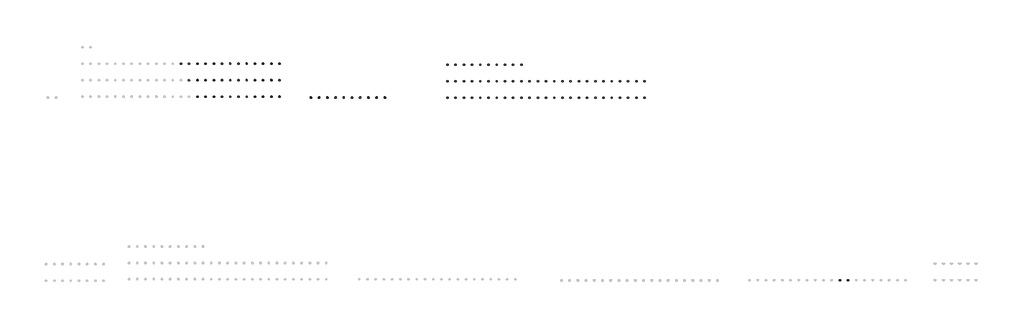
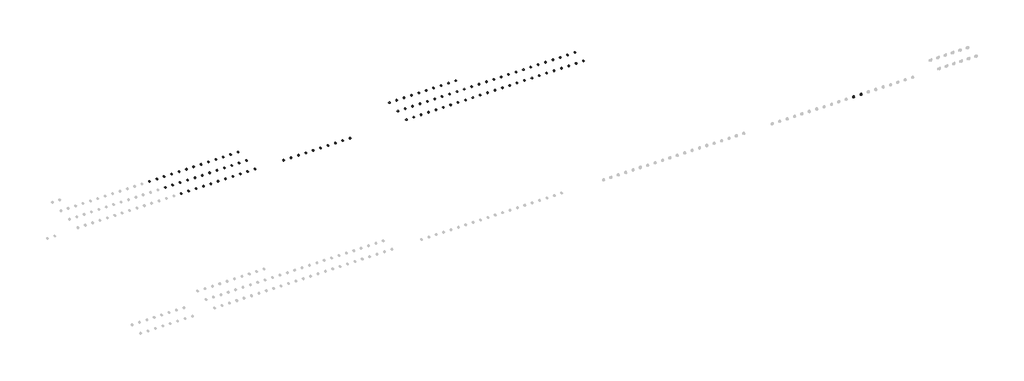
# One storey, part 14 of 18: 108 cable carrier fittings, 47 proxies.
"""IFC4 building model written with IfcOpenShell, lengths in millimetres."""

from ifc_helpers import new_model, si_unit, origin, place, context, project, spatial, transform, mapped, element, save
from components import electrical_fixtures_86e99d6b, electrical_fixtures_d0569d21, electrical_fixtures_ba285ae0, electrical_fixtures_0364c754, electrical_fixtures_06ac67d5, electrical_fixtures_78160e77, electrical_fixtures_ac517def, cable_carrier_fitting_a64d4eba

model = new_model("IFC4")

# Units and contexts
model_context = context("Model", 3, world=origin())
ifc_project = project(units=[si_unit("LENGTHUNIT", "METRE", prefix="MILLI")], contexts=[model_context])

# Site, building, storey
site = spatial("IfcSite", under=ifc_project)
building = spatial("IfcBuilding", under=site)
storey = spatial("IfcBuildingStorey", under=building, Name="Этаж 01", Elevation=0.0)

# Proxies
placement = place(None, origin())
electrical_fixtures_shape = electrical_fixtures_86e99d6b(model_context)
element("IfcBuildingElementProxy", 1, Name="IEK_Skandy_Механизм розетки мультимедийной : TV+RJ45_SK-A14B", ObjectType="IEK_Skandy_Механизм розетки мультимедийной : TV+RJ45_SK-A14B", at=placement, inside=storey, context=model_context, shape_type="MappedRepresentation", body=[
    mapped(electrical_fixtures_shape, transform((67063.2731659, -8060.0, 0.0), x_axis=(1.0, 0.0, 0.0), y_axis=(0.0, 1.0, 0.0), z_axis=(0.0, 0.0, 1.0))),
])
element("IfcBuildingElementProxy", 2, Name="IEK_Skandy_Механизм розетки мультимедийной : TV+RJ45_SK-A14Bl", ObjectType="IEK_Skandy_Механизм розетки мультимедийной : TV+RJ45_SK-A14Bl", at=placement, inside=storey, context=model_context, shape_type="MappedRepresentation", body=[
    mapped(electrical_fixtures_shape, transform((67463.2731659, -8060.0, 0.0), x_axis=(1.0, 0.0, 0.0), y_axis=(0.0, 1.0, 0.0), z_axis=(0.0, 0.0, 1.0))),
])
element("IfcBuildingElementProxy", 3, Name="IEK_Skandy_Механизм розетки мультимедийной : TV+RJ45_SK-A14G", ObjectType="IEK_Skandy_Механизм розетки мультимедийной : TV+RJ45_SK-A14G", at=placement, inside=storey, context=model_context, shape_type="MappedRepresentation", body=[
    mapped(electrical_fixtures_shape, transform((67863.2731659, -8060.0, 0.0), x_axis=(1.0, 0.0, 0.0), y_axis=(0.0, 1.0, 0.0), z_axis=(0.0, 0.0, 1.0))),
])
element("IfcBuildingElementProxy", 4, Name="IEK_Skandy_Механизм розетки мультимедийной : TV+RJ45_SK-A14Gr", ObjectType="IEK_Skandy_Механизм розетки мультимедийной : TV+RJ45_SK-A14Gr", at=placement, inside=storey, context=model_context, shape_type="MappedRepresentation", body=[
    mapped(electrical_fixtures_shape, transform((68263.2731659, -8060.0, 0.0), x_axis=(1.0, 0.0, 0.0), y_axis=(0.0, 1.0, 0.0), z_axis=(0.0, 0.0, 1.0))),
])
element("IfcBuildingElementProxy", 5, Name="IEK_Skandy_Механизм розетки мультимедийной : TV+RJ45_SK-A14M", ObjectType="IEK_Skandy_Механизм розетки мультимедийной : TV+RJ45_SK-A14M", at=placement, inside=storey, context=model_context, shape_type="MappedRepresentation", body=[
    mapped(electrical_fixtures_shape, transform((68663.2731659, -8060.0, 0.0), x_axis=(1.0, 0.0, 0.0), y_axis=(0.0, 1.0, 0.0), z_axis=(0.0, 0.0, 1.0))),
])
element("IfcBuildingElementProxy", 6, Name="IEK_Skandy_Механизм розетки мультимедийной : TV+RJ45_SK-A14N", ObjectType="IEK_Skandy_Механизм розетки мультимедийной : TV+RJ45_SK-A14N", at=placement, inside=storey, context=model_context, shape_type="MappedRepresentation", body=[
    mapped(electrical_fixtures_shape, transform((69063.2731659, -8060.0, 0.0), x_axis=(1.0, 0.0, 0.0), y_axis=(0.0, 1.0, 0.0), z_axis=(0.0, 0.0, 1.0))),
])
element("IfcBuildingElementProxy", 7, Name="IEK_Skandy_Механизм розетки мультимедийной : TV+RJ45_SK-A15Sa", ObjectType="IEK_Skandy_Механизм розетки мультимедийной : TV+RJ45_SK-A15Sa", at=placement, inside=storey, context=model_context, shape_type="MappedRepresentation", body=[
    mapped(electrical_fixtures_shape, transform((64263.2731659, -7260.0, 0.0), x_axis=(1.0, 0.0, 0.0), y_axis=(0.0, 1.0, 0.0), z_axis=(0.0, 0.0, 1.0))),
])
element("IfcBuildingElementProxy", 8, Name="IEK_Skandy_Механизм розетки мультимедийной : TV+RJ45_SK-A15Sh", ObjectType="IEK_Skandy_Механизм розетки мультимедийной : TV+RJ45_SK-A15Sh", at=placement, inside=storey, context=model_context, shape_type="MappedRepresentation", body=[
    mapped(electrical_fixtures_shape, transform((64663.2731659, -7260.0, 0.0), x_axis=(1.0, 0.0, 0.0), y_axis=(0.0, 1.0, 0.0), z_axis=(0.0, 0.0, 1.0))),
])
element("IfcBuildingElementProxy", 9, Name="IEK_Skandy_Механизм розетки мультимедийной : TV+RJ45_SK-A15T", ObjectType="IEK_Skandy_Механизм розетки мультимедийной : TV+RJ45_SK-A15T", at=placement, inside=storey, context=model_context, shape_type="MappedRepresentation", body=[
    mapped(electrical_fixtures_shape, transform((65063.2731659, -7260.0, 0.0), x_axis=(1.0, 0.0, 0.0), y_axis=(0.0, 1.0, 0.0), z_axis=(0.0, 0.0, 1.0))),
])
element("IfcBuildingElementProxy", 10, Name="IEK_Skandy_Механизм розетки мультимедийной : TV+RJ45_SK-A15W", ObjectType="IEK_Skandy_Механизм розетки мультимедийной : TV+RJ45_SK-A15W", at=placement, inside=storey, context=model_context, shape_type="MappedRepresentation", body=[
    mapped(electrical_fixtures_shape, transform((65463.2731659, -7260.0, 0.0), x_axis=(1.0, 0.0, 0.0), y_axis=(0.0, 1.0, 0.0), z_axis=(0.0, 0.0, 1.0))),
])
electrical_fixtures_2_shape = electrical_fixtures_d0569d21(model_context)
element("IfcBuildingElementProxy", 11, Name="IEK_Skandy_Механизм розетки мультимедийной : TV+SAT_SK-A13B", ObjectType="IEK_Skandy_Механизм розетки мультимедийной : TV+SAT_SK-A13B", at=placement, inside=storey, context=model_context, shape_type="MappedRepresentation", body=[
    mapped(electrical_fixtures_2_shape, transform((65863.2731659, -7260.0, 0.0), x_axis=(1.0, 0.0, 0.0), y_axis=(0.0, 1.0, 0.0), z_axis=(0.0, 0.0, 1.0))),
])
element("IfcBuildingElementProxy", 12, Name="IEK_Skandy_Механизм розетки мультимедийной : TV+SAT_SK-A13Bl", ObjectType="IEK_Skandy_Механизм розетки мультимедийной : TV+SAT_SK-A13Bl", at=placement, inside=storey, context=model_context, shape_type="MappedRepresentation", body=[
    mapped(electrical_fixtures_2_shape, transform((66263.2731659, -7260.0, 0.0), x_axis=(1.0, 0.0, 0.0), y_axis=(0.0, 1.0, 0.0), z_axis=(0.0, 0.0, 1.0))),
])
element("IfcBuildingElementProxy", 13, Name="IEK_Skandy_Механизм розетки мультимедийной : TV+SAT_SK-A13G", ObjectType="IEK_Skandy_Механизм розетки мультимедийной : TV+SAT_SK-A13G", at=placement, inside=storey, context=model_context, shape_type="MappedRepresentation", body=[
    mapped(electrical_fixtures_2_shape, transform((66663.2731659, -7260.0, 0.0), x_axis=(1.0, 0.0, 0.0), y_axis=(0.0, 1.0, 0.0), z_axis=(0.0, 0.0, 1.0))),
])
element("IfcBuildingElementProxy", 14, Name="IEK_Skandy_Механизм розетки мультимедийной : TV+SAT_SK-A13Gr", ObjectType="IEK_Skandy_Механизм розетки мультимедийной : TV+SAT_SK-A13Gr", at=placement, inside=storey, context=model_context, shape_type="MappedRepresentation", body=[
    mapped(electrical_fixtures_2_shape, transform((67063.2731659, -7260.0, 0.0), x_axis=(1.0, 0.0, 0.0), y_axis=(0.0, 1.0, 0.0), z_axis=(0.0, 0.0, 1.0))),
])
element("IfcBuildingElementProxy", 15, Name="IEK_Skandy_Механизм розетки мультимедийной : TV+SAT_SK-A13M", ObjectType="IEK_Skandy_Механизм розетки мультимедийной : TV+SAT_SK-A13M", at=placement, inside=storey, context=model_context, shape_type="MappedRepresentation", body=[
    mapped(electrical_fixtures_2_shape, transform((67463.2731659, -7260.0, 0.0), x_axis=(1.0, 0.0, 0.0), y_axis=(0.0, 1.0, 0.0), z_axis=(0.0, 0.0, 1.0))),
])
element("IfcBuildingElementProxy", 16, Name="IEK_Skandy_Механизм розетки мультимедийной : TV+SAT_SK-A13N", ObjectType="IEK_Skandy_Механизм розетки мультимедийной : TV+SAT_SK-A13N", at=placement, inside=storey, context=model_context, shape_type="MappedRepresentation", body=[
    mapped(electrical_fixtures_2_shape, transform((67863.2731659, -7260.0, 0.0), x_axis=(1.0, 0.0, 0.0), y_axis=(0.0, 1.0, 0.0), z_axis=(0.0, 0.0, 1.0))),
])
element("IfcBuildingElementProxy", 17, Name="IEK_Skandy_Механизм розетки мультимедийной : TV+SAT_SK-A13S", ObjectType="IEK_Skandy_Механизм розетки мультимедийной : TV+SAT_SK-A13S", at=placement, inside=storey, context=model_context, shape_type="MappedRepresentation", body=[
    mapped(electrical_fixtures_2_shape, transform((68263.2731659, -7260.0, 0.0), x_axis=(1.0, 0.0, 0.0), y_axis=(0.0, 1.0, 0.0), z_axis=(0.0, 0.0, 1.0))),
])
element("IfcBuildingElementProxy", 18, Name="IEK_Skandy_Механизм розетки мультимедийной : TV+SAT_SK-A13Sa", ObjectType="IEK_Skandy_Механизм розетки мультимедийной : TV+SAT_SK-A13Sa", at=placement, inside=storey, context=model_context, shape_type="MappedRepresentation", body=[
    mapped(electrical_fixtures_2_shape, transform((68663.2731659, -7260.0, 0.0), x_axis=(1.0, 0.0, 0.0), y_axis=(0.0, 1.0, 0.0), z_axis=(0.0, 0.0, 1.0))),
])
element("IfcBuildingElementProxy", 19, Name="IEK_Skandy_Механизм розетки мультимедийной : TV+SAT_SK-A13Sh", ObjectType="IEK_Skandy_Механизм розетки мультимедийной : TV+SAT_SK-A13Sh", at=placement, inside=storey, context=model_context, shape_type="MappedRepresentation", body=[
    mapped(electrical_fixtures_2_shape, transform((69063.2731659, -7260.0, 0.0), x_axis=(1.0, 0.0, 0.0), y_axis=(0.0, 1.0, 0.0), z_axis=(0.0, 0.0, 1.0))),
])
electrical_fixtures_3_shape = electrical_fixtures_ba285ae0(model_context)
element("IfcBuildingElementProxy", 20, Name="IEK_Skandy_Механизм розетки мультимедийной : HDMI_SK-H01Gr", ObjectType="IEK_Skandy_Механизм розетки мультимедийной : HDMI_SK-H01Gr", at=placement, inside=storey, context=model_context, shape_type="MappedRepresentation", body=[
    mapped(electrical_fixtures_3_shape, transform((65063.2731659, -8860.0, 0.0), x_axis=(1.0, 0.0, 0.0), y_axis=(0.0, 1.0, 0.0), z_axis=(0.0, 0.0, 1.0))),
])
element("IfcBuildingElementProxy", 21, Name="IEK_Skandy_Механизм розетки мультимедийной : HDMI_SK-H01M", ObjectType="IEK_Skandy_Механизм розетки мультимедийной : HDMI_SK-H01M", at=placement, inside=storey, context=model_context, shape_type="MappedRepresentation", body=[
    mapped(electrical_fixtures_3_shape, transform((65463.2731659, -8860.0, 0.0), x_axis=(1.0, 0.0, 0.0), y_axis=(0.0, 1.0, 0.0), z_axis=(0.0, 0.0, 1.0))),
])
element("IfcBuildingElementProxy", 22, Name="IEK_Skandy_Механизм розетки мультимедийной : HDMI_SK-H01N", ObjectType="IEK_Skandy_Механизм розетки мультимедийной : HDMI_SK-H01N", at=placement, inside=storey, context=model_context, shape_type="MappedRepresentation", body=[
    mapped(electrical_fixtures_3_shape, transform((65863.2731659, -8860.0, 0.0), x_axis=(1.0, 0.0, 0.0), y_axis=(0.0, 1.0, 0.0), z_axis=(0.0, 0.0, 1.0))),
])
element("IfcBuildingElementProxy", 23, Name="IEK_Skandy_Механизм розетки мультимедийной : HDMI_SK-H01S", ObjectType="IEK_Skandy_Механизм розетки мультимедийной : HDMI_SK-H01S", at=placement, inside=storey, context=model_context, shape_type="MappedRepresentation", body=[
    mapped(electrical_fixtures_3_shape, transform((66263.2731659, -8860.0, 0.0), x_axis=(1.0, 0.0, 0.0), y_axis=(0.0, 1.0, 0.0), z_axis=(0.0, 0.0, 1.0))),
])
element("IfcBuildingElementProxy", 24, Name="IEK_Skandy_Механизм розетки мультимедийной : HDMI_SK-H01Sa", ObjectType="IEK_Skandy_Механизм розетки мультимедийной : HDMI_SK-H01Sa", at=placement, inside=storey, context=model_context, shape_type="MappedRepresentation", body=[
    mapped(electrical_fixtures_3_shape, transform((66663.2731659, -8860.0, 0.0), x_axis=(1.0, 0.0, 0.0), y_axis=(0.0, 1.0, 0.0), z_axis=(0.0, 0.0, 1.0))),
])
element("IfcBuildingElementProxy", 25, Name="IEK_Skandy_Механизм розетки мультимедийной : HDMI_SK-H01Sh", ObjectType="IEK_Skandy_Механизм розетки мультимедийной : HDMI_SK-H01Sh", at=placement, inside=storey, context=model_context, shape_type="MappedRepresentation", body=[
    mapped(electrical_fixtures_3_shape, transform((67063.2731659, -8860.0, 0.0), x_axis=(1.0, 0.0, 0.0), y_axis=(0.0, 1.0, 0.0), z_axis=(0.0, 0.0, 1.0))),
])
element("IfcBuildingElementProxy", 26, Name="IEK_Skandy_Механизм розетки мультимедийной : HDMI_SK-H01T", ObjectType="IEK_Skandy_Механизм розетки мультимедийной : HDMI_SK-H01T", at=placement, inside=storey, context=model_context, shape_type="MappedRepresentation", body=[
    mapped(electrical_fixtures_3_shape, transform((67463.2731659, -8860.0, 0.0), x_axis=(1.0, 0.0, 0.0), y_axis=(0.0, 1.0, 0.0), z_axis=(0.0, 0.0, 1.0))),
])
element("IfcBuildingElementProxy", 27, Name="IEK_Skandy_Механизм розетки мультимедийной : HDMI_SK-H01W", ObjectType="IEK_Skandy_Механизм розетки мультимедийной : HDMI_SK-H01W", at=placement, inside=storey, context=model_context, shape_type="MappedRepresentation", body=[
    mapped(electrical_fixtures_3_shape, transform((67863.2731659, -8860.0, 0.0), x_axis=(1.0, 0.0, 0.0), y_axis=(0.0, 1.0, 0.0), z_axis=(0.0, 0.0, 1.0))),
])
electrical_fixtures_4_shape = electrical_fixtures_0364c754(model_context)
element("IfcBuildingElementProxy", 28, Name="IEK_Skandy_Механизм розетки мультимедийной : TV О_SK-A12B", ObjectType="IEK_Skandy_Механизм розетки мультимедийной : TV О_SK-A12B", at=placement, inside=storey, context=model_context, shape_type="MappedRepresentation", body=[
    mapped(electrical_fixtures_4_shape, transform((68263.2731659, -8860.0, 0.0), x_axis=(1.0, 0.0, 0.0), y_axis=(0.0, 1.0, 0.0), z_axis=(0.0, 0.0, 1.0))),
])
element("IfcBuildingElementProxy", 29, Name="IEK_Skandy_Механизм розетки мультимедийной : TV О_SK-A12Bl", ObjectType="IEK_Skandy_Механизм розетки мультимедийной : TV О_SK-A12Bl", at=placement, inside=storey, context=model_context, shape_type="MappedRepresentation", body=[
    mapped(electrical_fixtures_4_shape, transform((68663.2731659, -8860.0, 0.0), x_axis=(1.0, 0.0, 0.0), y_axis=(0.0, 1.0, 0.0), z_axis=(0.0, 0.0, 1.0))),
])
element("IfcBuildingElementProxy", 30, Name="IEK_Skandy_Механизм розетки мультимедийной : TV О_SK-A12G", ObjectType="IEK_Skandy_Механизм розетки мультимедийной : TV О_SK-A12G", at=placement, inside=storey, context=model_context, shape_type="MappedRepresentation", body=[
    mapped(electrical_fixtures_4_shape, transform((69063.2731659, -8860.0, 0.0), x_axis=(1.0, 0.0, 0.0), y_axis=(0.0, 1.0, 0.0), z_axis=(0.0, 0.0, 1.0))),
])
element("IfcBuildingElementProxy", 31, Name="IEK_Skandy_Механизм розетки мультимедийной : TV П_SK-A17S", ObjectType="IEK_Skandy_Механизм розетки мультимедийной : TV П_SK-A17S", at=placement, inside=storey, context=model_context, shape_type="MappedRepresentation", body=[
    mapped(electrical_fixtures_4_shape, transform((65063.2731659, -8060.0, 0.0), x_axis=(1.0, 0.0, 0.0), y_axis=(0.0, 1.0, 0.0), z_axis=(0.0, 0.0, 1.0))),
])
element("IfcBuildingElementProxy", 32, Name="IEK_Skandy_Механизм розетки мультимедийной : TV П_SK-A17Sa", ObjectType="IEK_Skandy_Механизм розетки мультимедийной : TV П_SK-A17Sa", at=placement, inside=storey, context=model_context, shape_type="MappedRepresentation", body=[
    mapped(electrical_fixtures_4_shape, transform((65463.2731659, -8060.0, 0.0), x_axis=(1.0, 0.0, 0.0), y_axis=(0.0, 1.0, 0.0), z_axis=(0.0, 0.0, 1.0))),
])
element("IfcBuildingElementProxy", 33, Name="IEK_Skandy_Механизм розетки мультимедийной : TV П_SK-A17Sh", ObjectType="IEK_Skandy_Механизм розетки мультимедийной : TV П_SK-A17Sh", at=placement, inside=storey, context=model_context, shape_type="MappedRepresentation", body=[
    mapped(electrical_fixtures_4_shape, transform((65863.2731659, -8060.0, 0.0), x_axis=(1.0, 0.0, 0.0), y_axis=(0.0, 1.0, 0.0), z_axis=(0.0, 0.0, 1.0))),
])
element("IfcBuildingElementProxy", 34, Name="IEK_Skandy_Механизм розетки мультимедийной : TV П_SK-A17T", ObjectType="IEK_Skandy_Механизм розетки мультимедийной : TV П_SK-A17T", at=placement, inside=storey, context=model_context, shape_type="MappedRepresentation", body=[
    mapped(electrical_fixtures_4_shape, transform((66263.2731659, -8060.0, 0.0), x_axis=(1.0, 0.0, 0.0), y_axis=(0.0, 1.0, 0.0), z_axis=(0.0, 0.0, 1.0))),
])
element("IfcBuildingElementProxy", 35, Name="IEK_Skandy_Механизм розетки мультимедийной : TV П_SK-A17W", ObjectType="IEK_Skandy_Механизм розетки мультимедийной : TV П_SK-A17W", at=placement, inside=storey, context=model_context, shape_type="MappedRepresentation", body=[
    mapped(electrical_fixtures_4_shape, transform((66663.2731659, -8060.0, 0.0), x_axis=(1.0, 0.0, 0.0), y_axis=(0.0, 1.0, 0.0), z_axis=(0.0, 0.0, 1.0))),
])
electrical_fixtures_5_shape = electrical_fixtures_06ac67d5(model_context)
element("IfcBuildingElementProxy", 36, Name="IEK_Skandy_Механизм свето-терморегулятора : ВР_SK-T01B", ObjectType="IEK_Skandy_Механизм свето-терморегулятора : ВР_SK-T01B", at=placement, inside=storey, context=model_context, shape_type="MappedRepresentation", body=[
    mapped(electrical_fixtures_5_shape, transform((70988.4433948, -8905.0, 0.0), x_axis=(1.0, 0.0, 0.0), y_axis=(0.0, 1.0, 0.0), z_axis=(0.0, 0.0, 1.0))),
])
element("IfcBuildingElementProxy", 37, Name="IEK_Skandy_Механизм свето-терморегулятора : ВР_SK-T01S", ObjectType="IEK_Skandy_Механизм свето-терморегулятора : ВР_SK-T01S", at=placement, inside=storey, context=model_context, shape_type="MappedRepresentation", body=[
    mapped(electrical_fixtures_5_shape, transform((71388.4433948, -8905.0, 0.0), x_axis=(1.0, 0.0, 0.0), y_axis=(0.0, 1.0, 0.0), z_axis=(0.0, 0.0, 1.0))),
])
element("IfcBuildingElementProxy", 38, Name="IEK_Skandy_Механизм свето-терморегулятора : ВР_SK-T01Bl", ObjectType="IEK_Skandy_Механизм свето-терморегулятора : ВР_SK-T01Bl", at=placement, inside=storey, context=model_context, shape_type="MappedRepresentation", body=[
    mapped(electrical_fixtures_5_shape, transform((71788.4433948, -8905.0, 0.0), x_axis=(1.0, 0.0, 0.0), y_axis=(0.0, 1.0, 0.0), z_axis=(0.0, 0.0, 1.0))),
])
element("IfcBuildingElementProxy", 39, Name="IEK_Skandy_Механизм свето-терморегулятора : ВР_SK-T01G", ObjectType="IEK_Skandy_Механизм свето-терморегулятора : ВР_SK-T01G", at=placement, inside=storey, context=model_context, shape_type="MappedRepresentation", body=[
    mapped(electrical_fixtures_5_shape, transform((72188.4433948, -8905.0, 0.0), x_axis=(1.0, 0.0, 0.0), y_axis=(0.0, 1.0, 0.0), z_axis=(0.0, 0.0, 1.0))),
])
element("IfcBuildingElementProxy", 40, Name="IEK_Skandy_Механизм свето-терморегулятора : ВР_SK-T01Sa", ObjectType="IEK_Skandy_Механизм свето-терморегулятора : ВР_SK-T01Sa", at=placement, inside=storey, context=model_context, shape_type="MappedRepresentation", body=[
    mapped(electrical_fixtures_5_shape, transform((72588.4433948, -8905.0, 0.0), x_axis=(1.0, 0.0, 0.0), y_axis=(0.0, 1.0, 0.0), z_axis=(0.0, 0.0, 1.0))),
])
element("IfcBuildingElementProxy", 41, Name="IEK_Skandy_Механизм свето-терморегулятора : ВР_SK-T01Sh", ObjectType="IEK_Skandy_Механизм свето-терморегулятора : ВР_SK-T01Sh", at=placement, inside=storey, context=model_context, shape_type="MappedRepresentation", body=[
    mapped(electrical_fixtures_5_shape, transform((72988.4433948, -8905.0, 0.0), x_axis=(1.0, 0.0, 0.0), y_axis=(0.0, 1.0, 0.0), z_axis=(0.0, 0.0, 1.0))),
])
element("IfcBuildingElementProxy", 42, Name="IEK_Skandy_Механизм свето-терморегулятора : ВР_SK-T01T", ObjectType="IEK_Skandy_Механизм свето-терморегулятора : ВР_SK-T01T", at=placement, inside=storey, context=model_context, shape_type="MappedRepresentation", body=[
    mapped(electrical_fixtures_5_shape, transform((73388.4433948, -8905.0, 0.0), x_axis=(1.0, 0.0, 0.0), y_axis=(0.0, 1.0, 0.0), z_axis=(0.0, 0.0, 1.0))),
])
element("IfcBuildingElementProxy", 43, Name="IEK_Skandy_Механизм свето-терморегулятора : ВР_SK-T01Gr", ObjectType="IEK_Skandy_Механизм свето-терморегулятора : ВР_SK-T01Gr", at=placement, inside=storey, context=model_context, shape_type="MappedRepresentation", body=[
    mapped(electrical_fixtures_5_shape, transform((74188.4433948, -8905.0, 0.0), x_axis=(1.0, 0.0, 0.0), y_axis=(0.0, 1.0, 0.0), z_axis=(0.0, 0.0, 1.0))),
])
element("IfcBuildingElementProxy", 44, Name="IEK_Skandy_Механизм свето-терморегулятора : ВР_SK-T01M", ObjectType="IEK_Skandy_Механизм свето-терморегулятора : ВР_SK-T01M", at=placement, inside=storey, context=model_context, shape_type="MappedRepresentation", body=[
    mapped(electrical_fixtures_5_shape, transform((73788.4433948, -8905.0, 0.0), x_axis=(1.0, 0.0, 0.0), y_axis=(0.0, 1.0, 0.0), z_axis=(0.0, 0.0, 1.0))),
])
element("IfcBuildingElementProxy", 45, Name="IEK_Skandy_Механизм свето-терморегулятора : ТР_SK-T01W", ObjectType="IEK_Skandy_Механизм свето-терморегулятора : ТР_SK-T01W", at=placement, inside=storey, context=model_context, shape_type="MappedRepresentation", body=[
    mapped(electrical_fixtures_5_shape, transform((70588.4433948, -8905.0, 0.0), x_axis=(1.0, 0.0, 0.0), y_axis=(0.0, 1.0, 0.0), z_axis=(0.0, 0.0, 1.0))),
])
electrical_fixtures_6_shape = electrical_fixtures_78160e77(model_context)
element("IfcBuildingElementProxy", 46, Name="IEK_Brite_Розетка_1гн : Р1_РСР14-1-0-БрА", ObjectType="IEK_Brite_Розетка_1гн : Р1_РСР14-1-0-БрА", at=placement, inside=storey, context=model_context, shape_type="MappedRepresentation", body=[
    mapped(electrical_fixtures_6_shape, transform((96361.8284089, -17805.0, 0.0), x_axis=(1.0, 0.0, 0.0), y_axis=(0.0, 1.0, 0.0), z_axis=(0.0, 0.0, 1.0))),
])
electrical_fixtures_7_shape = electrical_fixtures_ac517def(model_context)
element("IfcBuildingElementProxy", 47, Name="IEK_Brite_Розетка_1гн : Р1_РСР10-1-0-БрС", ObjectType="IEK_Brite_Розетка_1гн : Р1_РСР10-1-0-БрС", at=placement, inside=storey, context=model_context, shape_type="MappedRepresentation", body=[
    mapped(electrical_fixtures_7_shape, transform((96761.8284089, -17805.0, 0.0), x_axis=(1.0, 0.0, 0.0), y_axis=(0.0, 1.0, 0.0), z_axis=(0.0, 0.0, 1.0))),
])

# Cable carrier fittings
cable_carrier_fitting_shape = cable_carrier_fitting_a64d4eba(model_context)
element("IfcCableCarrierFitting", 48, ObjectType="IEK_Коробка монтажная : стены_полые", at=placement, inside=storey, context=model_context, shape_type="MappedRepresentation", body=[
    mapped(cable_carrier_fitting_shape, transform((65063.2731659, -8860.0, 0.0), x_axis=(1.0, 0.0, 0.0), y_axis=(0.0, 1.0, 0.0), z_axis=(0.0, 0.0, 1.0))),
])
element("IfcCableCarrierFitting", 49, ObjectType="IEK_Коробка монтажная : стены_полые", at=placement, inside=storey, context=model_context, shape_type="MappedRepresentation", body=[
    mapped(cable_carrier_fitting_shape, transform((65463.2731659, -8860.0, 0.0), x_axis=(1.0, 0.0, 0.0), y_axis=(0.0, 1.0, 0.0), z_axis=(0.0, 0.0, 1.0))),
])
element("IfcCableCarrierFitting", 50, ObjectType="IEK_Коробка монтажная : стены_полые", at=placement, inside=storey, context=model_context, shape_type="MappedRepresentation", body=[
    mapped(cable_carrier_fitting_shape, transform((65863.2731659, -8860.0, 0.0), x_axis=(1.0, 0.0, 0.0), y_axis=(0.0, 1.0, 0.0), z_axis=(0.0, 0.0, 1.0))),
])
element("IfcCableCarrierFitting", 51, ObjectType="IEK_Коробка монтажная : стены_полые", at=placement, inside=storey, context=model_context, shape_type="MappedRepresentation", body=[
    mapped(cable_carrier_fitting_shape, transform((66263.2731659, -8860.0, 0.0), x_axis=(1.0, 0.0, 0.0), y_axis=(0.0, 1.0, 0.0), z_axis=(0.0, 0.0, 1.0))),
])
element("IfcCableCarrierFitting", 52, ObjectType="IEK_Коробка монтажная : стены_полые", at=placement, inside=storey, context=model_context, shape_type="MappedRepresentation", body=[
    mapped(cable_carrier_fitting_shape, transform((66663.2731659, -8860.0, 0.0), x_axis=(1.0, 0.0, 0.0), y_axis=(0.0, 1.0, 0.0), z_axis=(0.0, 0.0, 1.0))),
])
element("IfcCableCarrierFitting", 53, ObjectType="IEK_Коробка монтажная : стены_полые", at=placement, inside=storey, context=model_context, shape_type="MappedRepresentation", body=[
    mapped(cable_carrier_fitting_shape, transform((67063.2731659, -8860.0, 0.0), x_axis=(1.0, 0.0, 0.0), y_axis=(0.0, 1.0, 0.0), z_axis=(0.0, 0.0, 1.0))),
])
element("IfcCableCarrierFitting", 54, ObjectType="IEK_Коробка монтажная : стены_полые", at=placement, inside=storey, context=model_context, shape_type="MappedRepresentation", body=[
    mapped(cable_carrier_fitting_shape, transform((67463.2731659, -8860.0, 0.0), x_axis=(1.0, 0.0, 0.0), y_axis=(0.0, 1.0, 0.0), z_axis=(0.0, 0.0, 1.0))),
])
element("IfcCableCarrierFitting", 55, ObjectType="IEK_Коробка монтажная : стены_полые", at=placement, inside=storey, context=model_context, shape_type="MappedRepresentation", body=[
    mapped(cable_carrier_fitting_shape, transform((67863.2731659, -8860.0, 0.0), x_axis=(1.0, 0.0, 0.0), y_axis=(0.0, 1.0, 0.0), z_axis=(0.0, 0.0, 1.0))),
])
element("IfcCableCarrierFitting", 56, ObjectType="IEK_Коробка монтажная : стены_полые", at=placement, inside=storey, context=model_context, shape_type="MappedRepresentation", body=[
    mapped(cable_carrier_fitting_shape, transform((68263.2731659, -8860.0, 0.0), x_axis=(1.0, 0.0, 0.0), y_axis=(0.0, 1.0, 0.0), z_axis=(0.0, 0.0, 1.0))),
])
element("IfcCableCarrierFitting", 57, ObjectType="IEK_Коробка монтажная : стены_полые", at=placement, inside=storey, context=model_context, shape_type="MappedRepresentation", body=[
    mapped(cable_carrier_fitting_shape, transform((68663.2731659, -8860.0, 0.0), x_axis=(1.0, 0.0, 0.0), y_axis=(0.0, 1.0, 0.0), z_axis=(0.0, 0.0, 1.0))),
])
element("IfcCableCarrierFitting", 58, ObjectType="IEK_Коробка монтажная : стены_полые", at=placement, inside=storey, context=model_context, shape_type="MappedRepresentation", body=[
    mapped(cable_carrier_fitting_shape, transform((69063.2731659, -8860.0, 0.0), x_axis=(1.0, 0.0, 0.0), y_axis=(0.0, 1.0, 0.0), z_axis=(0.0, 0.0, 1.0))),
])
element("IfcCableCarrierFitting", 59, ObjectType="IEK_Коробка монтажная : стены_полые", at=placement, inside=storey, context=model_context, shape_type="MappedRepresentation", body=[
    mapped(cable_carrier_fitting_shape, transform((64663.2731659, -8060.0, 0.0), x_axis=(1.0, 0.0, 0.0), y_axis=(0.0, 1.0, 0.0), z_axis=(0.0, 0.0, 1.0))),
])
element("IfcCableCarrierFitting", 60, ObjectType="IEK_Коробка монтажная : стены_полые", at=placement, inside=storey, context=model_context, shape_type="MappedRepresentation", body=[
    mapped(cable_carrier_fitting_shape, transform((65063.2731659, -8060.0, 0.0), x_axis=(1.0, 0.0, 0.0), y_axis=(0.0, 1.0, 0.0), z_axis=(0.0, 0.0, 1.0))),
])
element("IfcCableCarrierFitting", 61, ObjectType="IEK_Коробка монтажная : стены_полые", at=placement, inside=storey, context=model_context, shape_type="MappedRepresentation", body=[
    mapped(cable_carrier_fitting_shape, transform((65463.2731659, -8060.0, 0.0), x_axis=(1.0, 0.0, 0.0), y_axis=(0.0, 1.0, 0.0), z_axis=(0.0, 0.0, 1.0))),
])
element("IfcCableCarrierFitting", 62, ObjectType="IEK_Коробка монтажная : стены_полые", at=placement, inside=storey, context=model_context, shape_type="MappedRepresentation", body=[
    mapped(cable_carrier_fitting_shape, transform((65863.2731659, -8060.0, 0.0), x_axis=(1.0, 0.0, 0.0), y_axis=(0.0, 1.0, 0.0), z_axis=(0.0, 0.0, 1.0))),
])
element("IfcCableCarrierFitting", 63, ObjectType="IEK_Коробка монтажная : стены_полые", at=placement, inside=storey, context=model_context, shape_type="MappedRepresentation", body=[
    mapped(cable_carrier_fitting_shape, transform((66263.2731659, -8060.0, 0.0), x_axis=(1.0, 0.0, 0.0), y_axis=(0.0, 1.0, 0.0), z_axis=(0.0, 0.0, 1.0))),
])
element("IfcCableCarrierFitting", 64, ObjectType="IEK_Коробка монтажная : стены_полые", at=placement, inside=storey, context=model_context, shape_type="MappedRepresentation", body=[
    mapped(cable_carrier_fitting_shape, transform((66663.2731659, -8060.0, 0.0), x_axis=(1.0, 0.0, 0.0), y_axis=(0.0, 1.0, 0.0), z_axis=(0.0, 0.0, 1.0))),
])
element("IfcCableCarrierFitting", 65, ObjectType="IEK_Коробка монтажная : стены_полые", at=placement, inside=storey, context=model_context, shape_type="MappedRepresentation", body=[
    mapped(cable_carrier_fitting_shape, transform((67063.2731659, -8060.0, 0.0), x_axis=(1.0, 0.0, 0.0), y_axis=(0.0, 1.0, 0.0), z_axis=(0.0, 0.0, 1.0))),
])
element("IfcCableCarrierFitting", 66, ObjectType="IEK_Коробка монтажная : стены_полые", at=placement, inside=storey, context=model_context, shape_type="MappedRepresentation", body=[
    mapped(cable_carrier_fitting_shape, transform((67463.2731659, -8060.0, 0.0), x_axis=(1.0, 0.0, 0.0), y_axis=(0.0, 1.0, 0.0), z_axis=(0.0, 0.0, 1.0))),
])
element("IfcCableCarrierFitting", 67, ObjectType="IEK_Коробка монтажная : стены_полые", at=placement, inside=storey, context=model_context, shape_type="MappedRepresentation", body=[
    mapped(cable_carrier_fitting_shape, transform((67863.2731659, -8060.0, 0.0), x_axis=(1.0, 0.0, 0.0), y_axis=(0.0, 1.0, 0.0), z_axis=(0.0, 0.0, 1.0))),
])
element("IfcCableCarrierFitting", 68, ObjectType="IEK_Коробка монтажная : стены_полые", at=placement, inside=storey, context=model_context, shape_type="MappedRepresentation", body=[
    mapped(cable_carrier_fitting_shape, transform((68263.2731659, -8060.0, 0.0), x_axis=(1.0, 0.0, 0.0), y_axis=(0.0, 1.0, 0.0), z_axis=(0.0, 0.0, 1.0))),
])
element("IfcCableCarrierFitting", 69, ObjectType="IEK_Коробка монтажная : стены_полые", at=placement, inside=storey, context=model_context, shape_type="MappedRepresentation", body=[
    mapped(cable_carrier_fitting_shape, transform((68663.2731659, -8060.0, 0.0), x_axis=(1.0, 0.0, 0.0), y_axis=(0.0, 1.0, 0.0), z_axis=(0.0, 0.0, 1.0))),
])
element("IfcCableCarrierFitting", 70, ObjectType="IEK_Коробка монтажная : стены_полые", at=placement, inside=storey, context=model_context, shape_type="MappedRepresentation", body=[
    mapped(cable_carrier_fitting_shape, transform((69063.2731659, -8060.0, 0.0), x_axis=(1.0, 0.0, 0.0), y_axis=(0.0, 1.0, 0.0), z_axis=(0.0, 0.0, 1.0))),
])
element("IfcCableCarrierFitting", 71, ObjectType="IEK_Коробка монтажная : стены_полые", at=placement, inside=storey, context=model_context, shape_type="MappedRepresentation", body=[
    mapped(cable_carrier_fitting_shape, transform((64263.2731659, -7260.0, 0.0), x_axis=(1.0, 0.0, 0.0), y_axis=(0.0, 1.0, 0.0), z_axis=(0.0, 0.0, 1.0))),
])
element("IfcCableCarrierFitting", 72, ObjectType="IEK_Коробка монтажная : стены_полые", at=placement, inside=storey, context=model_context, shape_type="MappedRepresentation", body=[
    mapped(cable_carrier_fitting_shape, transform((64663.2731659, -7260.0, 0.0), x_axis=(1.0, 0.0, 0.0), y_axis=(0.0, 1.0, 0.0), z_axis=(0.0, 0.0, 1.0))),
])
element("IfcCableCarrierFitting", 73, ObjectType="IEK_Коробка монтажная : стены_полые", at=placement, inside=storey, context=model_context, shape_type="MappedRepresentation", body=[
    mapped(cable_carrier_fitting_shape, transform((65063.2731659, -7260.0, 0.0), x_axis=(1.0, 0.0, 0.0), y_axis=(0.0, 1.0, 0.0), z_axis=(0.0, 0.0, 1.0))),
])
element("IfcCableCarrierFitting", 74, ObjectType="IEK_Коробка монтажная : стены_полые", at=placement, inside=storey, context=model_context, shape_type="MappedRepresentation", body=[
    mapped(cable_carrier_fitting_shape, transform((65463.2731659, -7260.0, 0.0), x_axis=(1.0, 0.0, 0.0), y_axis=(0.0, 1.0, 0.0), z_axis=(0.0, 0.0, 1.0))),
])
element("IfcCableCarrierFitting", 75, ObjectType="IEK_Коробка монтажная : стены_полые", at=placement, inside=storey, context=model_context, shape_type="MappedRepresentation", body=[
    mapped(cable_carrier_fitting_shape, transform((65863.2731659, -7260.0, 0.0), x_axis=(1.0, 0.0, 0.0), y_axis=(0.0, 1.0, 0.0), z_axis=(0.0, 0.0, 1.0))),
])
element("IfcCableCarrierFitting", 76, ObjectType="IEK_Коробка монтажная : стены_полые", at=placement, inside=storey, context=model_context, shape_type="MappedRepresentation", body=[
    mapped(cable_carrier_fitting_shape, transform((66263.2731659, -7260.0, 0.0), x_axis=(1.0, 0.0, 0.0), y_axis=(0.0, 1.0, 0.0), z_axis=(0.0, 0.0, 1.0))),
])
element("IfcCableCarrierFitting", 77, ObjectType="IEK_Коробка монтажная : стены_полые", at=placement, inside=storey, context=model_context, shape_type="MappedRepresentation", body=[
    mapped(cable_carrier_fitting_shape, transform((66663.2731659, -7260.0, 0.0), x_axis=(1.0, 0.0, 0.0), y_axis=(0.0, 1.0, 0.0), z_axis=(0.0, 0.0, 1.0))),
])
element("IfcCableCarrierFitting", 78, ObjectType="IEK_Коробка монтажная : стены_полые", at=placement, inside=storey, context=model_context, shape_type="MappedRepresentation", body=[
    mapped(cable_carrier_fitting_shape, transform((67063.2731659, -7260.0, 0.0), x_axis=(1.0, 0.0, 0.0), y_axis=(0.0, 1.0, 0.0), z_axis=(0.0, 0.0, 1.0))),
])
element("IfcCableCarrierFitting", 79, ObjectType="IEK_Коробка монтажная : стены_полые", at=placement, inside=storey, context=model_context, shape_type="MappedRepresentation", body=[
    mapped(cable_carrier_fitting_shape, transform((67463.2731659, -7260.0, 0.0), x_axis=(1.0, 0.0, 0.0), y_axis=(0.0, 1.0, 0.0), z_axis=(0.0, 0.0, 1.0))),
])
element("IfcCableCarrierFitting", 80, ObjectType="IEK_Коробка монтажная : стены_полые", at=placement, inside=storey, context=model_context, shape_type="MappedRepresentation", body=[
    mapped(cable_carrier_fitting_shape, transform((67863.2731659, -7260.0, 0.0), x_axis=(1.0, 0.0, 0.0), y_axis=(0.0, 1.0, 0.0), z_axis=(0.0, 0.0, 1.0))),
])
element("IfcCableCarrierFitting", 81, ObjectType="IEK_Коробка монтажная : стены_полые", at=placement, inside=storey, context=model_context, shape_type="MappedRepresentation", body=[
    mapped(cable_carrier_fitting_shape, transform((68263.2731659, -7260.0, 0.0), x_axis=(1.0, 0.0, 0.0), y_axis=(0.0, 1.0, 0.0), z_axis=(0.0, 0.0, 1.0))),
])
element("IfcCableCarrierFitting", 82, ObjectType="IEK_Коробка монтажная : стены_полые", at=placement, inside=storey, context=model_context, shape_type="MappedRepresentation", body=[
    mapped(cable_carrier_fitting_shape, transform((68663.2731659, -7260.0, 0.0), x_axis=(1.0, 0.0, 0.0), y_axis=(0.0, 1.0, 0.0), z_axis=(0.0, 0.0, 1.0))),
])
element("IfcCableCarrierFitting", 83, ObjectType="IEK_Коробка монтажная : стены_полые", at=placement, inside=storey, context=model_context, shape_type="MappedRepresentation", body=[
    mapped(cable_carrier_fitting_shape, transform((69063.2731659, -7260.0, 0.0), x_axis=(1.0, 0.0, 0.0), y_axis=(0.0, 1.0, 0.0), z_axis=(0.0, 0.0, 1.0))),
])
element("IfcCableCarrierFitting", 84, ObjectType="IEK_Коробка монтажная : стены_полые", at=placement, inside=storey, context=model_context, shape_type="MappedRepresentation", body=[
    mapped(cable_carrier_fitting_shape, transform((70588.4433948, -8905.0, 0.0), x_axis=(1.0, 0.0, 0.0), y_axis=(0.0, 1.0, 0.0), z_axis=(0.0, 0.0, 1.0))),
])
element("IfcCableCarrierFitting", 85, ObjectType="IEK_Коробка монтажная : стены_полые", at=placement, inside=storey, context=model_context, shape_type="MappedRepresentation", body=[
    mapped(cable_carrier_fitting_shape, transform((70988.4433948, -8905.0, 0.0), x_axis=(1.0, 0.0, 0.0), y_axis=(0.0, 1.0, 0.0), z_axis=(0.0, 0.0, 1.0))),
])
element("IfcCableCarrierFitting", 86, ObjectType="IEK_Коробка монтажная : стены_полые", at=placement, inside=storey, context=model_context, shape_type="MappedRepresentation", body=[
    mapped(cable_carrier_fitting_shape, transform((71388.4433948, -8905.0, 0.0), x_axis=(1.0, 0.0, 0.0), y_axis=(0.0, 1.0, 0.0), z_axis=(0.0, 0.0, 1.0))),
])
element("IfcCableCarrierFitting", 87, ObjectType="IEK_Коробка монтажная : стены_полые", at=placement, inside=storey, context=model_context, shape_type="MappedRepresentation", body=[
    mapped(cable_carrier_fitting_shape, transform((71788.4433948, -8905.0, 0.0), x_axis=(1.0, 0.0, 0.0), y_axis=(0.0, 1.0, 0.0), z_axis=(0.0, 0.0, 1.0))),
])
element("IfcCableCarrierFitting", 88, ObjectType="IEK_Коробка монтажная : стены_полые", at=placement, inside=storey, context=model_context, shape_type="MappedRepresentation", body=[
    mapped(cable_carrier_fitting_shape, transform((72188.4433948, -8905.0, 0.0), x_axis=(1.0, 0.0, 0.0), y_axis=(0.0, 1.0, 0.0), z_axis=(0.0, 0.0, 1.0))),
])
element("IfcCableCarrierFitting", 89, ObjectType="IEK_Коробка монтажная : стены_полые", at=placement, inside=storey, context=model_context, shape_type="MappedRepresentation", body=[
    mapped(cable_carrier_fitting_shape, transform((72588.4433948, -8905.0, 0.0), x_axis=(1.0, 0.0, 0.0), y_axis=(0.0, 1.0, 0.0), z_axis=(0.0, 0.0, 1.0))),
])
element("IfcCableCarrierFitting", 90, ObjectType="IEK_Коробка монтажная : стены_полые", at=placement, inside=storey, context=model_context, shape_type="MappedRepresentation", body=[
    mapped(cable_carrier_fitting_shape, transform((72988.4433948, -8905.0, 0.0), x_axis=(1.0, 0.0, 0.0), y_axis=(0.0, 1.0, 0.0), z_axis=(0.0, 0.0, 1.0))),
])
element("IfcCableCarrierFitting", 91, ObjectType="IEK_Коробка монтажная : стены_полые", at=placement, inside=storey, context=model_context, shape_type="MappedRepresentation", body=[
    mapped(cable_carrier_fitting_shape, transform((73388.4433948, -8905.0, 0.0), x_axis=(1.0, 0.0, 0.0), y_axis=(0.0, 1.0, 0.0), z_axis=(0.0, 0.0, 1.0))),
])
element("IfcCableCarrierFitting", 92, ObjectType="IEK_Коробка монтажная : стены_полые", at=placement, inside=storey, context=model_context, shape_type="MappedRepresentation", body=[
    mapped(cable_carrier_fitting_shape, transform((73788.4433948, -8905.0, 0.0), x_axis=(1.0, 0.0, 0.0), y_axis=(0.0, 1.0, 0.0), z_axis=(0.0, 0.0, 1.0))),
])
element("IfcCableCarrierFitting", 93, ObjectType="IEK_Коробка монтажная : стены_полые", at=placement, inside=storey, context=model_context, shape_type="MappedRepresentation", body=[
    mapped(cable_carrier_fitting_shape, transform((74188.4433948, -8905.0, 0.0), x_axis=(1.0, 0.0, 0.0), y_axis=(0.0, 1.0, 0.0), z_axis=(0.0, 0.0, 1.0))),
])
element("IfcCableCarrierFitting", 94, ObjectType="IEK_Коробка монтажная : стены_полые", at=placement, inside=storey, context=model_context, shape_type="MappedRepresentation", body=[
    mapped(cable_carrier_fitting_shape, transform((77235.4974024, -8905.0, 0.0), x_axis=(1.0, 0.0, 0.0), y_axis=(0.0, 1.0, 0.0), z_axis=(0.0, 0.0, 1.0))),
])
element("IfcCableCarrierFitting", 95, ObjectType="IEK_Коробка монтажная : стены_полые", at=placement, inside=storey, context=model_context, shape_type="MappedRepresentation", body=[
    mapped(cable_carrier_fitting_shape, transform((77635.4974024, -8905.0, 0.0), x_axis=(1.0, 0.0, 0.0), y_axis=(0.0, 1.0, 0.0), z_axis=(0.0, 0.0, 1.0))),
])
element("IfcCableCarrierFitting", 96, ObjectType="IEK_Коробка монтажная : стены_полые", at=placement, inside=storey, context=model_context, shape_type="MappedRepresentation", body=[
    mapped(cable_carrier_fitting_shape, transform((78035.4974024, -8905.0, 0.0), x_axis=(1.0, 0.0, 0.0), y_axis=(0.0, 1.0, 0.0), z_axis=(0.0, 0.0, 1.0))),
])
element("IfcCableCarrierFitting", 97, ObjectType="IEK_Коробка монтажная : стены_полые", at=placement, inside=storey, context=model_context, shape_type="MappedRepresentation", body=[
    mapped(cable_carrier_fitting_shape, transform((78435.4974024, -8905.0, 0.0), x_axis=(1.0, 0.0, 0.0), y_axis=(0.0, 1.0, 0.0), z_axis=(0.0, 0.0, 1.0))),
])
element("IfcCableCarrierFitting", 98, ObjectType="IEK_Коробка монтажная : стены_полые", at=placement, inside=storey, context=model_context, shape_type="MappedRepresentation", body=[
    mapped(cable_carrier_fitting_shape, transform((78835.4974024, -8905.0, 0.0), x_axis=(1.0, 0.0, 0.0), y_axis=(0.0, 1.0, 0.0), z_axis=(0.0, 0.0, 1.0))),
])
element("IfcCableCarrierFitting", 99, ObjectType="IEK_Коробка монтажная : стены_полые", at=placement, inside=storey, context=model_context, shape_type="MappedRepresentation", body=[
    mapped(cable_carrier_fitting_shape, transform((79235.4974024, -8905.0, 0.0), x_axis=(1.0, 0.0, 0.0), y_axis=(0.0, 1.0, 0.0), z_axis=(0.0, 0.0, 1.0))),
])
element("IfcCableCarrierFitting", 100, ObjectType="IEK_Коробка монтажная : стены_полые", at=placement, inside=storey, context=model_context, shape_type="MappedRepresentation", body=[
    mapped(cable_carrier_fitting_shape, transform((79635.4974024, -8905.0, 0.0), x_axis=(1.0, 0.0, 0.0), y_axis=(0.0, 1.0, 0.0), z_axis=(0.0, 0.0, 1.0))),
])
element("IfcCableCarrierFitting", 101, ObjectType="IEK_Коробка монтажная : стены_полые", at=placement, inside=storey, context=model_context, shape_type="MappedRepresentation", body=[
    mapped(cable_carrier_fitting_shape, transform((80035.4974024, -8905.0, 0.0), x_axis=(1.0, 0.0, 0.0), y_axis=(0.0, 1.0, 0.0), z_axis=(0.0, 0.0, 1.0))),
])
element("IfcCableCarrierFitting", 102, ObjectType="IEK_Коробка монтажная : стены_полые", at=placement, inside=storey, context=model_context, shape_type="MappedRepresentation", body=[
    mapped(cable_carrier_fitting_shape, transform((80435.4974024, -8905.0, 0.0), x_axis=(1.0, 0.0, 0.0), y_axis=(0.0, 1.0, 0.0), z_axis=(0.0, 0.0, 1.0))),
])
element("IfcCableCarrierFitting", 103, ObjectType="IEK_Коробка монтажная : стены_полые", at=placement, inside=storey, context=model_context, shape_type="MappedRepresentation", body=[
    mapped(cable_carrier_fitting_shape, transform((80835.4974024, -8905.0, 0.0), x_axis=(1.0, 0.0, 0.0), y_axis=(0.0, 1.0, 0.0), z_axis=(0.0, 0.0, 1.0))),
])
element("IfcCableCarrierFitting", 104, ObjectType="IEK_Коробка монтажная : стены_полые", at=placement, inside=storey, context=model_context, shape_type="MappedRepresentation", body=[
    mapped(cable_carrier_fitting_shape, transform((81235.4974024, -8905.0, 0.0), x_axis=(1.0, 0.0, 0.0), y_axis=(0.0, 1.0, 0.0), z_axis=(0.0, 0.0, 1.0))),
])
element("IfcCableCarrierFitting", 105, ObjectType="IEK_Коробка монтажная : стены_полые", at=placement, inside=storey, context=model_context, shape_type="MappedRepresentation", body=[
    mapped(cable_carrier_fitting_shape, transform((81635.4974024, -8905.0, 0.0), x_axis=(1.0, 0.0, 0.0), y_axis=(0.0, 1.0, 0.0), z_axis=(0.0, 0.0, 1.0))),
])
element("IfcCableCarrierFitting", 106, ObjectType="IEK_Коробка монтажная : стены_полые", at=placement, inside=storey, context=model_context, shape_type="MappedRepresentation", body=[
    mapped(cable_carrier_fitting_shape, transform((82035.4974024, -8905.0, 0.0), x_axis=(1.0, 0.0, 0.0), y_axis=(0.0, 1.0, 0.0), z_axis=(0.0, 0.0, 1.0))),
])
element("IfcCableCarrierFitting", 107, ObjectType="IEK_Коробка монтажная : стены_полые", at=placement, inside=storey, context=model_context, shape_type="MappedRepresentation", body=[
    mapped(cable_carrier_fitting_shape, transform((82435.4974024, -8905.0, 0.0), x_axis=(1.0, 0.0, 0.0), y_axis=(0.0, 1.0, 0.0), z_axis=(0.0, 0.0, 1.0))),
])
element("IfcCableCarrierFitting", 108, ObjectType="IEK_Коробка монтажная : стены_полые", at=placement, inside=storey, context=model_context, shape_type="MappedRepresentation", body=[
    mapped(cable_carrier_fitting_shape, transform((82835.4974024, -8905.0, 0.0), x_axis=(1.0, 0.0, 0.0), y_axis=(0.0, 1.0, 0.0), z_axis=(0.0, 0.0, 1.0))),
])
element("IfcCableCarrierFitting", 109, ObjectType="IEK_Коробка монтажная : стены_полые", at=placement, inside=storey, context=model_context, shape_type="MappedRepresentation", body=[
    mapped(cable_carrier_fitting_shape, transform((83235.4974024, -8905.0, 0.0), x_axis=(1.0, 0.0, 0.0), y_axis=(0.0, 1.0, 0.0), z_axis=(0.0, 0.0, 1.0))),
])
element("IfcCableCarrierFitting", 110, ObjectType="IEK_Коробка монтажная : стены_полые", at=placement, inside=storey, context=model_context, shape_type="MappedRepresentation", body=[
    mapped(cable_carrier_fitting_shape, transform((83635.4974024, -8905.0, 0.0), x_axis=(1.0, 0.0, 0.0), y_axis=(0.0, 1.0, 0.0), z_axis=(0.0, 0.0, 1.0))),
])
element("IfcCableCarrierFitting", 111, ObjectType="IEK_Коробка монтажная : стены_полые", at=placement, inside=storey, context=model_context, shape_type="MappedRepresentation", body=[
    mapped(cable_carrier_fitting_shape, transform((84035.4974024, -8905.0, 0.0), x_axis=(1.0, 0.0, 0.0), y_axis=(0.0, 1.0, 0.0), z_axis=(0.0, 0.0, 1.0))),
])
element("IfcCableCarrierFitting", 112, ObjectType="IEK_Коробка монтажная : стены_полые", at=placement, inside=storey, context=model_context, shape_type="MappedRepresentation", body=[
    mapped(cable_carrier_fitting_shape, transform((84435.4974024, -8905.0, 0.0), x_axis=(1.0, 0.0, 0.0), y_axis=(0.0, 1.0, 0.0), z_axis=(0.0, 0.0, 1.0))),
])
element("IfcCableCarrierFitting", 113, ObjectType="IEK_Коробка монтажная : стены_полые", at=placement, inside=storey, context=model_context, shape_type="MappedRepresentation", body=[
    mapped(cable_carrier_fitting_shape, transform((84835.4974024, -8905.0, 0.0), x_axis=(1.0, 0.0, 0.0), y_axis=(0.0, 1.0, 0.0), z_axis=(0.0, 0.0, 1.0))),
])
element("IfcCableCarrierFitting", 114, ObjectType="IEK_Коробка монтажная : стены_полые", at=placement, inside=storey, context=model_context, shape_type="MappedRepresentation", body=[
    mapped(cable_carrier_fitting_shape, transform((85235.4974024, -8905.0, 0.0), x_axis=(1.0, 0.0, 0.0), y_axis=(0.0, 1.0, 0.0), z_axis=(0.0, 0.0, 1.0))),
])
element("IfcCableCarrierFitting", 115, ObjectType="IEK_Коробка монтажная : стены_полые", at=placement, inside=storey, context=model_context, shape_type="MappedRepresentation", body=[
    mapped(cable_carrier_fitting_shape, transform((85635.4974024, -8905.0, 0.0), x_axis=(1.0, 0.0, 0.0), y_axis=(0.0, 1.0, 0.0), z_axis=(0.0, 0.0, 1.0))),
])
element("IfcCableCarrierFitting", 116, ObjectType="IEK_Коробка монтажная : стены_полые", at=placement, inside=storey, context=model_context, shape_type="MappedRepresentation", body=[
    mapped(cable_carrier_fitting_shape, transform((86035.4974024, -8905.0, 0.0), x_axis=(1.0, 0.0, 0.0), y_axis=(0.0, 1.0, 0.0), z_axis=(0.0, 0.0, 1.0))),
])
element("IfcCableCarrierFitting", 117, ObjectType="IEK_Коробка монтажная : стены_полые", at=placement, inside=storey, context=model_context, shape_type="MappedRepresentation", body=[
    mapped(cable_carrier_fitting_shape, transform((86435.4974024, -8905.0, 0.0), x_axis=(1.0, 0.0, 0.0), y_axis=(0.0, 1.0, 0.0), z_axis=(0.0, 0.0, 1.0))),
])
element("IfcCableCarrierFitting", 118, ObjectType="IEK_Коробка монтажная : стены_полые", at=placement, inside=storey, context=model_context, shape_type="MappedRepresentation", body=[
    mapped(cable_carrier_fitting_shape, transform((86835.4974024, -8905.0, 0.0), x_axis=(1.0, 0.0, 0.0), y_axis=(0.0, 1.0, 0.0), z_axis=(0.0, 0.0, 1.0))),
])
element("IfcCableCarrierFitting", 119, ObjectType="IEK_Коробка монтажная : стены_полые", at=placement, inside=storey, context=model_context, shape_type="MappedRepresentation", body=[
    mapped(cable_carrier_fitting_shape, transform((77235.4974024, -8105.0, 0.0), x_axis=(1.0, 0.0, 0.0), y_axis=(0.0, 1.0, 0.0), z_axis=(0.0, 0.0, 1.0))),
])
element("IfcCableCarrierFitting", 120, ObjectType="IEK_Коробка монтажная : стены_полые", at=placement, inside=storey, context=model_context, shape_type="MappedRepresentation", body=[
    mapped(cable_carrier_fitting_shape, transform((77635.4974024, -8105.0, 0.0), x_axis=(1.0, 0.0, 0.0), y_axis=(0.0, 1.0, 0.0), z_axis=(0.0, 0.0, 1.0))),
])
element("IfcCableCarrierFitting", 121, ObjectType="IEK_Коробка монтажная : стены_полые", at=placement, inside=storey, context=model_context, shape_type="MappedRepresentation", body=[
    mapped(cable_carrier_fitting_shape, transform((78035.4974024, -8105.0, 0.0), x_axis=(1.0, 0.0, 0.0), y_axis=(0.0, 1.0, 0.0), z_axis=(0.0, 0.0, 1.0))),
])
element("IfcCableCarrierFitting", 122, ObjectType="IEK_Коробка монтажная : стены_полые", at=placement, inside=storey, context=model_context, shape_type="MappedRepresentation", body=[
    mapped(cable_carrier_fitting_shape, transform((78435.4974024, -8105.0, 0.0), x_axis=(1.0, 0.0, 0.0), y_axis=(0.0, 1.0, 0.0), z_axis=(0.0, 0.0, 1.0))),
])
element("IfcCableCarrierFitting", 123, ObjectType="IEK_Коробка монтажная : стены_полые", at=placement, inside=storey, context=model_context, shape_type="MappedRepresentation", body=[
    mapped(cable_carrier_fitting_shape, transform((78835.4974024, -8105.0, 0.0), x_axis=(1.0, 0.0, 0.0), y_axis=(0.0, 1.0, 0.0), z_axis=(0.0, 0.0, 1.0))),
])
element("IfcCableCarrierFitting", 124, ObjectType="IEK_Коробка монтажная : стены_полые", at=placement, inside=storey, context=model_context, shape_type="MappedRepresentation", body=[
    mapped(cable_carrier_fitting_shape, transform((79235.4974024, -8105.0, 0.0), x_axis=(1.0, 0.0, 0.0), y_axis=(0.0, 1.0, 0.0), z_axis=(0.0, 0.0, 1.0))),
])
element("IfcCableCarrierFitting", 125, ObjectType="IEK_Коробка монтажная : стены_полые", at=placement, inside=storey, context=model_context, shape_type="MappedRepresentation", body=[
    mapped(cable_carrier_fitting_shape, transform((79635.4974024, -8105.0, 0.0), x_axis=(1.0, 0.0, 0.0), y_axis=(0.0, 1.0, 0.0), z_axis=(0.0, 0.0, 1.0))),
])
element("IfcCableCarrierFitting", 126, ObjectType="IEK_Коробка монтажная : стены_полые", at=placement, inside=storey, context=model_context, shape_type="MappedRepresentation", body=[
    mapped(cable_carrier_fitting_shape, transform((80035.4974024, -8105.0, 0.0), x_axis=(1.0, 0.0, 0.0), y_axis=(0.0, 1.0, 0.0), z_axis=(0.0, 0.0, 1.0))),
])
element("IfcCableCarrierFitting", 127, ObjectType="IEK_Коробка монтажная : стены_полые", at=placement, inside=storey, context=model_context, shape_type="MappedRepresentation", body=[
    mapped(cable_carrier_fitting_shape, transform((80435.4974024, -8105.0, 0.0), x_axis=(1.0, 0.0, 0.0), y_axis=(0.0, 1.0, 0.0), z_axis=(0.0, 0.0, 1.0))),
])
element("IfcCableCarrierFitting", 128, ObjectType="IEK_Коробка монтажная : стены_полые", at=placement, inside=storey, context=model_context, shape_type="MappedRepresentation", body=[
    mapped(cable_carrier_fitting_shape, transform((80835.4974024, -8105.0, 0.0), x_axis=(1.0, 0.0, 0.0), y_axis=(0.0, 1.0, 0.0), z_axis=(0.0, 0.0, 1.0))),
])
element("IfcCableCarrierFitting", 129, ObjectType="IEK_Коробка монтажная : стены_полые", at=placement, inside=storey, context=model_context, shape_type="MappedRepresentation", body=[
    mapped(cable_carrier_fitting_shape, transform((81235.4974024, -8105.0, 0.0), x_axis=(1.0, 0.0, 0.0), y_axis=(0.0, 1.0, 0.0), z_axis=(0.0, 0.0, 1.0))),
])
element("IfcCableCarrierFitting", 130, ObjectType="IEK_Коробка монтажная : стены_полые", at=placement, inside=storey, context=model_context, shape_type="MappedRepresentation", body=[
    mapped(cable_carrier_fitting_shape, transform((81635.4974024, -8105.0, 0.0), x_axis=(1.0, 0.0, 0.0), y_axis=(0.0, 1.0, 0.0), z_axis=(0.0, 0.0, 1.0))),
])
element("IfcCableCarrierFitting", 131, ObjectType="IEK_Коробка монтажная : стены_полые", at=placement, inside=storey, context=model_context, shape_type="MappedRepresentation", body=[
    mapped(cable_carrier_fitting_shape, transform((82035.4974024, -8105.0, 0.0), x_axis=(1.0, 0.0, 0.0), y_axis=(0.0, 1.0, 0.0), z_axis=(0.0, 0.0, 1.0))),
])
element("IfcCableCarrierFitting", 132, ObjectType="IEK_Коробка монтажная : стены_полые", at=placement, inside=storey, context=model_context, shape_type="MappedRepresentation", body=[
    mapped(cable_carrier_fitting_shape, transform((82435.4974024, -8105.0, 0.0), x_axis=(1.0, 0.0, 0.0), y_axis=(0.0, 1.0, 0.0), z_axis=(0.0, 0.0, 1.0))),
])
element("IfcCableCarrierFitting", 133, ObjectType="IEK_Коробка монтажная : стены_полые", at=placement, inside=storey, context=model_context, shape_type="MappedRepresentation", body=[
    mapped(cable_carrier_fitting_shape, transform((82835.4974024, -8105.0, 0.0), x_axis=(1.0, 0.0, 0.0), y_axis=(0.0, 1.0, 0.0), z_axis=(0.0, 0.0, 1.0))),
])
element("IfcCableCarrierFitting", 134, ObjectType="IEK_Коробка монтажная : стены_полые", at=placement, inside=storey, context=model_context, shape_type="MappedRepresentation", body=[
    mapped(cable_carrier_fitting_shape, transform((83235.4974024, -8105.0, 0.0), x_axis=(1.0, 0.0, 0.0), y_axis=(0.0, 1.0, 0.0), z_axis=(0.0, 0.0, 1.0))),
])
element("IfcCableCarrierFitting", 135, ObjectType="IEK_Коробка монтажная : стены_полые", at=placement, inside=storey, context=model_context, shape_type="MappedRepresentation", body=[
    mapped(cable_carrier_fitting_shape, transform((83635.4974024, -8105.0, 0.0), x_axis=(1.0, 0.0, 0.0), y_axis=(0.0, 1.0, 0.0), z_axis=(0.0, 0.0, 1.0))),
])
element("IfcCableCarrierFitting", 136, ObjectType="IEK_Коробка монтажная : стены_полые", at=placement, inside=storey, context=model_context, shape_type="MappedRepresentation", body=[
    mapped(cable_carrier_fitting_shape, transform((84035.4974024, -8105.0, 0.0), x_axis=(1.0, 0.0, 0.0), y_axis=(0.0, 1.0, 0.0), z_axis=(0.0, 0.0, 1.0))),
])
element("IfcCableCarrierFitting", 137, ObjectType="IEK_Коробка монтажная : стены_полые", at=placement, inside=storey, context=model_context, shape_type="MappedRepresentation", body=[
    mapped(cable_carrier_fitting_shape, transform((84435.4974024, -8105.0, 0.0), x_axis=(1.0, 0.0, 0.0), y_axis=(0.0, 1.0, 0.0), z_axis=(0.0, 0.0, 1.0))),
])
element("IfcCableCarrierFitting", 138, ObjectType="IEK_Коробка монтажная : стены_полые", at=placement, inside=storey, context=model_context, shape_type="MappedRepresentation", body=[
    mapped(cable_carrier_fitting_shape, transform((84835.4974024, -8105.0, 0.0), x_axis=(1.0, 0.0, 0.0), y_axis=(0.0, 1.0, 0.0), z_axis=(0.0, 0.0, 1.0))),
])
element("IfcCableCarrierFitting", 139, ObjectType="IEK_Коробка монтажная : стены_полые", at=placement, inside=storey, context=model_context, shape_type="MappedRepresentation", body=[
    mapped(cable_carrier_fitting_shape, transform((85235.4974024, -8105.0, 0.0), x_axis=(1.0, 0.0, 0.0), y_axis=(0.0, 1.0, 0.0), z_axis=(0.0, 0.0, 1.0))),
])
element("IfcCableCarrierFitting", 140, ObjectType="IEK_Коробка монтажная : стены_полые", at=placement, inside=storey, context=model_context, shape_type="MappedRepresentation", body=[
    mapped(cable_carrier_fitting_shape, transform((85635.4974024, -8105.0, 0.0), x_axis=(1.0, 0.0, 0.0), y_axis=(0.0, 1.0, 0.0), z_axis=(0.0, 0.0, 1.0))),
])
element("IfcCableCarrierFitting", 141, ObjectType="IEK_Коробка монтажная : стены_полые", at=placement, inside=storey, context=model_context, shape_type="MappedRepresentation", body=[
    mapped(cable_carrier_fitting_shape, transform((86035.4974024, -8105.0, 0.0), x_axis=(1.0, 0.0, 0.0), y_axis=(0.0, 1.0, 0.0), z_axis=(0.0, 0.0, 1.0))),
])
element("IfcCableCarrierFitting", 142, ObjectType="IEK_Коробка монтажная : стены_полые", at=placement, inside=storey, context=model_context, shape_type="MappedRepresentation", body=[
    mapped(cable_carrier_fitting_shape, transform((86435.4974024, -8105.0, 0.0), x_axis=(1.0, 0.0, 0.0), y_axis=(0.0, 1.0, 0.0), z_axis=(0.0, 0.0, 1.0))),
])
element("IfcCableCarrierFitting", 143, ObjectType="IEK_Коробка монтажная : стены_полые", at=placement, inside=storey, context=model_context, shape_type="MappedRepresentation", body=[
    mapped(cable_carrier_fitting_shape, transform((86835.4974024, -8105.0, 0.0), x_axis=(1.0, 0.0, 0.0), y_axis=(0.0, 1.0, 0.0), z_axis=(0.0, 0.0, 1.0))),
])
element("IfcCableCarrierFitting", 144, ObjectType="IEK_Коробка монтажная : стены_полые", at=placement, inside=storey, context=model_context, shape_type="MappedRepresentation", body=[
    mapped(cable_carrier_fitting_shape, transform((77235.4974024, -7305.0, 0.0), x_axis=(1.0, 0.0, 0.0), y_axis=(0.0, 1.0, 0.0), z_axis=(0.0, 0.0, 1.0))),
])
element("IfcCableCarrierFitting", 145, ObjectType="IEK_Коробка монтажная : стены_полые", at=placement, inside=storey, context=model_context, shape_type="MappedRepresentation", body=[
    mapped(cable_carrier_fitting_shape, transform((77635.4974024, -7305.0, 0.0), x_axis=(1.0, 0.0, 0.0), y_axis=(0.0, 1.0, 0.0), z_axis=(0.0, 0.0, 1.0))),
])
element("IfcCableCarrierFitting", 146, ObjectType="IEK_Коробка монтажная : стены_полые", at=placement, inside=storey, context=model_context, shape_type="MappedRepresentation", body=[
    mapped(cable_carrier_fitting_shape, transform((78035.4974024, -7305.0, 0.0), x_axis=(1.0, 0.0, 0.0), y_axis=(0.0, 1.0, 0.0), z_axis=(0.0, 0.0, 1.0))),
])
element("IfcCableCarrierFitting", 147, ObjectType="IEK_Коробка монтажная : стены_полые", at=placement, inside=storey, context=model_context, shape_type="MappedRepresentation", body=[
    mapped(cable_carrier_fitting_shape, transform((78435.4974024, -7305.0, 0.0), x_axis=(1.0, 0.0, 0.0), y_axis=(0.0, 1.0, 0.0), z_axis=(0.0, 0.0, 1.0))),
])
element("IfcCableCarrierFitting", 148, ObjectType="IEK_Коробка монтажная : стены_полые", at=placement, inside=storey, context=model_context, shape_type="MappedRepresentation", body=[
    mapped(cable_carrier_fitting_shape, transform((78835.4974024, -7305.0, 0.0), x_axis=(1.0, 0.0, 0.0), y_axis=(0.0, 1.0, 0.0), z_axis=(0.0, 0.0, 1.0))),
])
element("IfcCableCarrierFitting", 149, ObjectType="IEK_Коробка монтажная : стены_полые", at=placement, inside=storey, context=model_context, shape_type="MappedRepresentation", body=[
    mapped(cable_carrier_fitting_shape, transform((79235.4974024, -7305.0, 0.0), x_axis=(1.0, 0.0, 0.0), y_axis=(0.0, 1.0, 0.0), z_axis=(0.0, 0.0, 1.0))),
])
element("IfcCableCarrierFitting", 150, ObjectType="IEK_Коробка монтажная : стены_полые", at=placement, inside=storey, context=model_context, shape_type="MappedRepresentation", body=[
    mapped(cable_carrier_fitting_shape, transform((79635.4974024, -7305.0, 0.0), x_axis=(1.0, 0.0, 0.0), y_axis=(0.0, 1.0, 0.0), z_axis=(0.0, 0.0, 1.0))),
])
element("IfcCableCarrierFitting", 151, ObjectType="IEK_Коробка монтажная : стены_полые", at=placement, inside=storey, context=model_context, shape_type="MappedRepresentation", body=[
    mapped(cable_carrier_fitting_shape, transform((80035.4974024, -7305.0, 0.0), x_axis=(1.0, 0.0, 0.0), y_axis=(0.0, 1.0, 0.0), z_axis=(0.0, 0.0, 1.0))),
])
element("IfcCableCarrierFitting", 152, ObjectType="IEK_Коробка монтажная : стены_полые", at=placement, inside=storey, context=model_context, shape_type="MappedRepresentation", body=[
    mapped(cable_carrier_fitting_shape, transform((80435.4974024, -7305.0, 0.0), x_axis=(1.0, 0.0, 0.0), y_axis=(0.0, 1.0, 0.0), z_axis=(0.0, 0.0, 1.0))),
])
element("IfcCableCarrierFitting", 153, ObjectType="IEK_Коробка монтажная : стены_полые", at=placement, inside=storey, context=model_context, shape_type="MappedRepresentation", body=[
    mapped(cable_carrier_fitting_shape, transform((80835.4974024, -7305.0, 0.0), x_axis=(1.0, 0.0, 0.0), y_axis=(0.0, 1.0, 0.0), z_axis=(0.0, 0.0, 1.0))),
])
element("IfcCableCarrierFitting", 154, ObjectType="IEK_Коробка монтажная : стены_полые", at=placement, inside=storey, context=model_context, shape_type="MappedRepresentation", body=[
    mapped(cable_carrier_fitting_shape, transform((96341.3284089, -17805.0, 0.0), x_axis=(1.0, 0.0, 0.0), y_axis=(0.0, 1.0, 0.0), z_axis=(0.0, 0.0, 1.0))),
])
element("IfcCableCarrierFitting", 155, ObjectType="IEK_Коробка монтажная : стены_полые", at=placement, inside=storey, context=model_context, shape_type="MappedRepresentation", body=[
    mapped(cable_carrier_fitting_shape, transform((96741.3284089, -17805.0, 0.0), x_axis=(1.0, 0.0, 0.0), y_axis=(0.0, 1.0, 0.0), z_axis=(0.0, 0.0, 1.0))),
])

save(model, "model.ifc")
